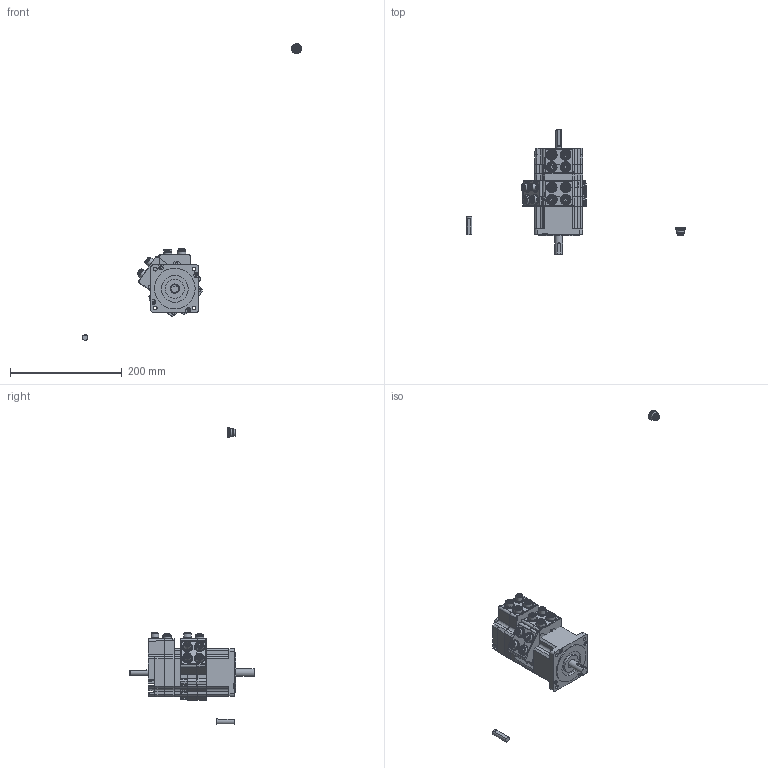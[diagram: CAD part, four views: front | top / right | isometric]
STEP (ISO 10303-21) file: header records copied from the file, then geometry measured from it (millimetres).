
FILE_DESCRIPTION( ( 'Unknown' ), '1' );
FILE_NAME( 'K:/JVL/MISxx/MIS34x/CAD internet tegninger/STEP/STEP/MIS342C15xxxx85.stp', 'Unknown', ( 'Unknown' ), ( 'Unknown' ), 'PSStep 11.0', 'Unknown', ' ' );
FILE_SCHEMA( ( 'AUTOMOTIVE_DESIGN { 1 0 10303 214 1 1 1 1 }' ) );
Length unit declared in the file: millimetre
Products named in the file (10): Assem1; MIS34 house with rear shaft; MIS34 house; MM3831; MM3830; PWR 5 pin male; IO RS485 17 pin female; Ethernet 4 pin female; Rear shaft; MIS342 motor single shaft
Bounding box: 393.01 x 222.7 x 531.92 mm (x, y, z)
Volume: 2765693.6 mm3; surface area: 406498.8 mm2
Topology: 28 solids, 32 shells, 4103 faces, 9809 edges, 6022 vertices
Faces by surface type: plane 1817, cylinder 1611, sphere 436, cone 120, bspline 64, torus 31, extrusion 24
Full cylindrical faces by diameter (mm): 0.7 x68, 1 x64, 3 x20, 4.3 x16, 4.4 x8, 6.6 x8, 8.2 x4, 10 x3, 10.6 x4, 11.5 x11, 12 x4, 13.3 x7, 13.6 x4, 14 x2, 16 x4, 16.5 x2, 18 x15, 19 x16, 34 x2, 48 x2, 73 x2
Entity records: 38560 total; most frequent: CARTESIAN_POINT 6026, DIRECTION 5296, ORIENTED_EDGE 4744, EDGE_CURVE 2372, AXIS2_PLACEMENT_3D 1948, VERTEX_POINT 1497, VECTOR 1400, LINE 1394
